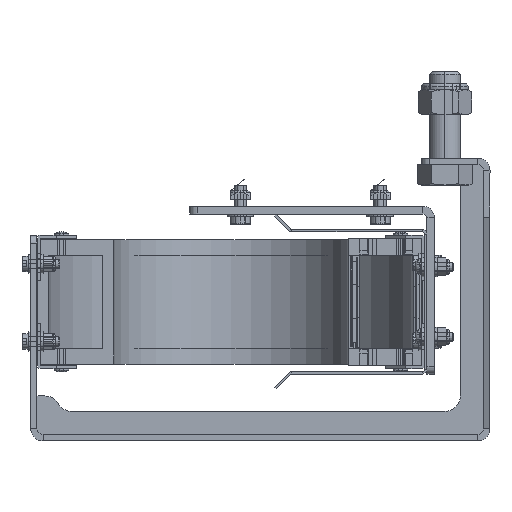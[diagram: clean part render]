
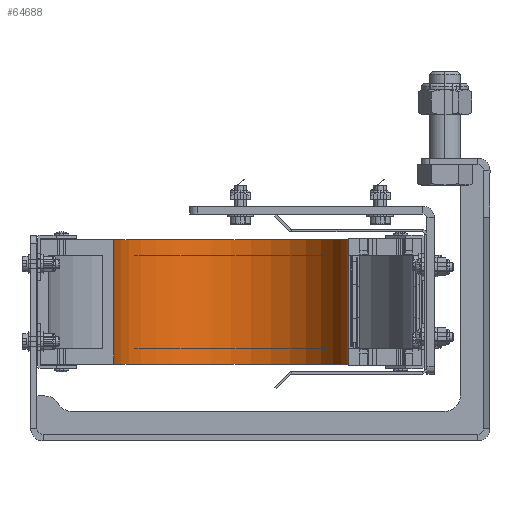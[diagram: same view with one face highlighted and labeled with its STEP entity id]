
A CAD part, left-side view. The second image highlights one B-rep face of the part: STEP entity #64688.
In plain terms, the highlighted cylindrical face has radius 75.5 mm (diameter 151 mm), a partial arc.
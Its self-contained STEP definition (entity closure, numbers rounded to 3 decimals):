
#144 = VERTEX_POINT ( 'NONE', #29461 ) ;
#1809 = CARTESIAN_POINT ( 'NONE',  ( 0., -175.5, 0. ) ) ;
#2402 = CARTESIAN_POINT ( 'NONE',  ( 0., -175.5, -40. ) ) ;
#4780 = VERTEX_POINT ( 'NONE', #41897 ) ;
#6018 = EDGE_CURVE ( 'NONE', #144, #35801, #7657, .T. ) ;
#7657 = LINE ( 'NONE', #38191, #22485 ) ;
#7976 = CARTESIAN_POINT ( 'NONE',  ( 0., -100., 40. ) ) ;
#12608 = ORIENTED_EDGE ( 'NONE', *, *, #42861, .F. ) ;
#16659 = DIRECTION ( 'NONE',  ( 0., 0., -1. ) ) ;
#19404 = LINE ( 'NONE', #1809, #45968 ) ;
#21530 = DIRECTION ( 'NONE',  ( 1., 0., 0. ) ) ;
#22180 = CIRCLE ( 'NONE', #64739, 75.5 ) ;
#22485 = VECTOR ( 'NONE', #16659, 1000. ) ;
#26612 = DIRECTION ( 'NONE',  ( 0., 0., 1. ) ) ;
#26696 = EDGE_CURVE ( 'NONE', #37682, #4780, #19404, .T. ) ;
#27229 = CARTESIAN_POINT ( 'NONE',  ( 0., -24.5, -40. ) ) ;
#27561 = AXIS2_PLACEMENT_3D ( 'NONE', #60856, #61085, #34889 ) ;
#29242 = DIRECTION ( 'NONE',  ( 1., 0., 0. ) ) ;
#29461 = CARTESIAN_POINT ( 'NONE',  ( 0., -24.5, 40. ) ) ;
#33457 = AXIS2_PLACEMENT_3D ( 'NONE', #7976, #33624, #29242 ) ;
#33624 = DIRECTION ( 'NONE',  ( 0., 0., -1. ) ) ;
#34889 = DIRECTION ( 'NONE',  ( 1., 0., 0. ) ) ;
#35801 = VERTEX_POINT ( 'NONE', #27229 ) ;
#37653 = EDGE_CURVE ( 'NONE', #4780, #144, #57736, .T. ) ;
#37682 = VERTEX_POINT ( 'NONE', #2402 ) ;
#37949 = CARTESIAN_POINT ( 'NONE',  ( 0., -100., -40. ) ) ;
#38191 = CARTESIAN_POINT ( 'NONE',  ( 0., -24.5, 0. ) ) ;
#41897 = CARTESIAN_POINT ( 'NONE',  ( 0., -175.5, 40. ) ) ;
#42405 = DIRECTION ( 'NONE',  ( 0., 0., 1. ) ) ;
#42861 = EDGE_CURVE ( 'NONE', #35801, #37682, #22180, .T. ) ;
#45968 = VECTOR ( 'NONE', #42405, 1000. ) ;
#53362 = ORIENTED_EDGE ( 'NONE', *, *, #26696, .F. ) ;
#56295 = FACE_OUTER_BOUND ( 'NONE', #58201, .T. ) ;
#57736 = CIRCLE ( 'NONE', #33457, 75.5 ) ;
#58201 = EDGE_LOOP ( 'NONE', ( #12608, #61488, #67169, #53362 ) ) ;
#60856 = CARTESIAN_POINT ( 'NONE',  ( 0., -100., 0. ) ) ;
#61085 = DIRECTION ( 'NONE',  ( 0., 0., 1. ) ) ;
#61488 = ORIENTED_EDGE ( 'NONE', *, *, #6018, .F. ) ;
#64688 = ADVANCED_FACE ( 'NONE', ( #56295 ), #68598, .F. ) ;
#64739 = AXIS2_PLACEMENT_3D ( 'NONE', #37949, #26612, #21530 ) ;
#67169 = ORIENTED_EDGE ( 'NONE', *, *, #37653, .F. ) ;
#68598 = CYLINDRICAL_SURFACE ( 'NONE', #27561, 75.5 ) ;
